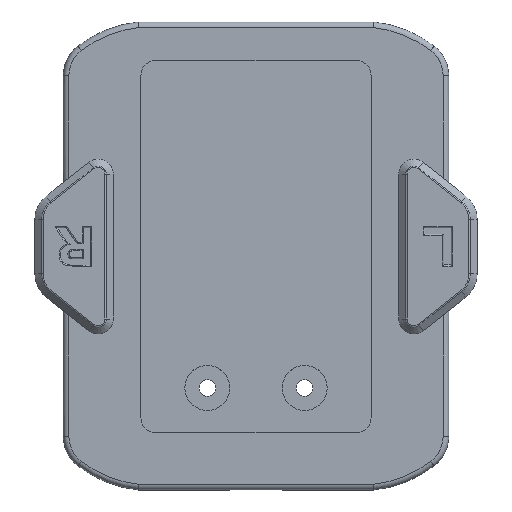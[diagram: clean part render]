
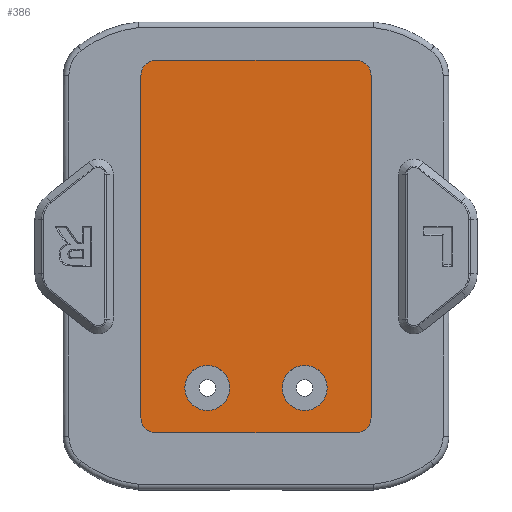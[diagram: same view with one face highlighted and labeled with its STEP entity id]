
A CAD part, top view. The second image highlights one B-rep face of the part: STEP entity #386.
In plain terms, the highlighted planar face has unit normal (0, 0, 1).
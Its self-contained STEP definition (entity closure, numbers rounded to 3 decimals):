
#386=ADVANCED_FACE('',(#576,#577,#578),#528,.T.);
#528=PLANE('',#2443);
#576=FACE_BOUND('',#606,.T.);
#577=FACE_BOUND('',#607,.T.);
#578=FACE_BOUND('',#608,.T.);
#606=EDGE_LOOP('',(#943,#944,#945,#946,#947,#948,#949,#950));
#607=EDGE_LOOP('',(#951));
#608=EDGE_LOOP('',(#952));
#785=CIRCLE('',#2437,4.);
#786=CIRCLE('',#2438,4.);
#787=CIRCLE('',#2439,4.);
#788=CIRCLE('',#2440,4.);
#789=CIRCLE('',#2441,6.);
#790=CIRCLE('',#2442,6.);
#943=ORIENTED_EDGE('',*,*,#1802,.T.);
#944=ORIENTED_EDGE('',*,*,#1803,.T.);
#945=ORIENTED_EDGE('',*,*,#1804,.T.);
#946=ORIENTED_EDGE('',*,*,#1805,.T.);
#947=ORIENTED_EDGE('',*,*,#1806,.T.);
#948=ORIENTED_EDGE('',*,*,#1807,.T.);
#949=ORIENTED_EDGE('',*,*,#1808,.T.);
#950=ORIENTED_EDGE('',*,*,#1809,.T.);
#951=ORIENTED_EDGE('',*,*,#1810,.F.);
#952=ORIENTED_EDGE('',*,*,#1811,.T.);
#1597=VERTEX_POINT('',#3489);
#1598=VERTEX_POINT('',#3490);
#1599=VERTEX_POINT('',#3492);
#1600=VERTEX_POINT('',#3494);
#1601=VERTEX_POINT('',#3496);
#1602=VERTEX_POINT('',#3498);
#1603=VERTEX_POINT('',#3500);
#1604=VERTEX_POINT('',#3502);
#1605=VERTEX_POINT('',#3505);
#1606=VERTEX_POINT('',#3507);
#1802=EDGE_CURVE('',#1597,#1598,#2101,.T.);
#1803=EDGE_CURVE('',#1598,#1599,#785,.T.);
#1804=EDGE_CURVE('',#1599,#1600,#2102,.T.);
#1805=EDGE_CURVE('',#1600,#1601,#786,.T.);
#1806=EDGE_CURVE('',#1601,#1602,#2103,.T.);
#1807=EDGE_CURVE('',#1602,#1603,#787,.T.);
#1808=EDGE_CURVE('',#1603,#1604,#2104,.T.);
#1809=EDGE_CURVE('',#1604,#1597,#788,.T.);
#1810=EDGE_CURVE('',#1605,#1605,#789,.T.);
#1811=EDGE_CURVE('',#1606,#1606,#790,.T.);
#2101=LINE('',#3488,#2268);
#2102=LINE('',#3493,#2269);
#2103=LINE('',#3497,#2270);
#2104=LINE('',#3501,#2271);
#2268=VECTOR('',#2775,1.);
#2269=VECTOR('',#2778,1.);
#2270=VECTOR('',#2781,1.);
#2271=VECTOR('',#2784,1.);
#2437=AXIS2_PLACEMENT_3D('',#3491,#2776,#2777);
#2438=AXIS2_PLACEMENT_3D('',#3495,#2779,#2780);
#2439=AXIS2_PLACEMENT_3D('',#3499,#2782,#2783);
#2440=AXIS2_PLACEMENT_3D('',#3503,#2785,#2786);
#2441=AXIS2_PLACEMENT_3D('',#3504,#2787,#2788);
#2442=AXIS2_PLACEMENT_3D('',#3506,#2789,#2790);
#2443=AXIS2_PLACEMENT_3D('',#3508,#2791,#2792);
#2775=DIRECTION('',(0.,1.,0.));
#2776=DIRECTION('',(0.,0.,1.));
#2777=DIRECTION('',(1.,0.,0.));
#2778=DIRECTION('',(-1.,0.,0.));
#2779=DIRECTION('',(0.,0.,1.));
#2780=DIRECTION('',(1.,0.,0.));
#2781=DIRECTION('',(0.,-1.,0.));
#2782=DIRECTION('',(0.,0.,1.));
#2783=DIRECTION('',(1.,0.,0.));
#2784=DIRECTION('',(1.,0.,0.));
#2785=DIRECTION('',(0.,0.,1.));
#2786=DIRECTION('',(1.,0.,0.));
#2787=DIRECTION('',(0.,0.,1.));
#2788=DIRECTION('',(1.,0.,0.));
#2789=DIRECTION('',(0.,0.,-1.));
#2790=DIRECTION('',(1.,0.,0.));
#2791=DIRECTION('',(0.,0.,1.));
#2792=DIRECTION('',(1.,0.,0.));
#3488=CARTESIAN_POINT('',(180.25,184.75,62.9));
#3489=CARTESIAN_POINT('',(180.25,89.25,62.9));
#3490=CARTESIAN_POINT('',(180.25,180.75,62.9));
#3491=CARTESIAN_POINT('',(176.25,180.75,62.9));
#3492=CARTESIAN_POINT('',(176.25,184.75,62.9));
#3493=CARTESIAN_POINT('',(180.25,184.75,62.9));
#3494=CARTESIAN_POINT('',(122.75,184.75,62.9));
#3495=CARTESIAN_POINT('',(122.75,180.75,62.9));
#3496=CARTESIAN_POINT('',(118.75,180.75,62.9));
#3497=CARTESIAN_POINT('',(118.75,184.75,62.9));
#3498=CARTESIAN_POINT('',(118.75,89.25,62.9));
#3499=CARTESIAN_POINT('',(122.75,89.25,62.9));
#3500=CARTESIAN_POINT('',(122.75,85.25,62.9));
#3501=CARTESIAN_POINT('',(180.25,85.25,62.9));
#3502=CARTESIAN_POINT('',(176.25,85.25,62.9));
#3503=CARTESIAN_POINT('',(176.25,89.25,62.9));
#3504=CARTESIAN_POINT('',(162.5,97.25,62.9));
#3505=CARTESIAN_POINT('',(168.5,97.25,62.9));
#3506=CARTESIAN_POINT('',(136.5,97.25,62.9));
#3507=CARTESIAN_POINT('',(142.5,97.25,62.9));
#3508=CARTESIAN_POINT('',(180.25,184.75,62.9));
